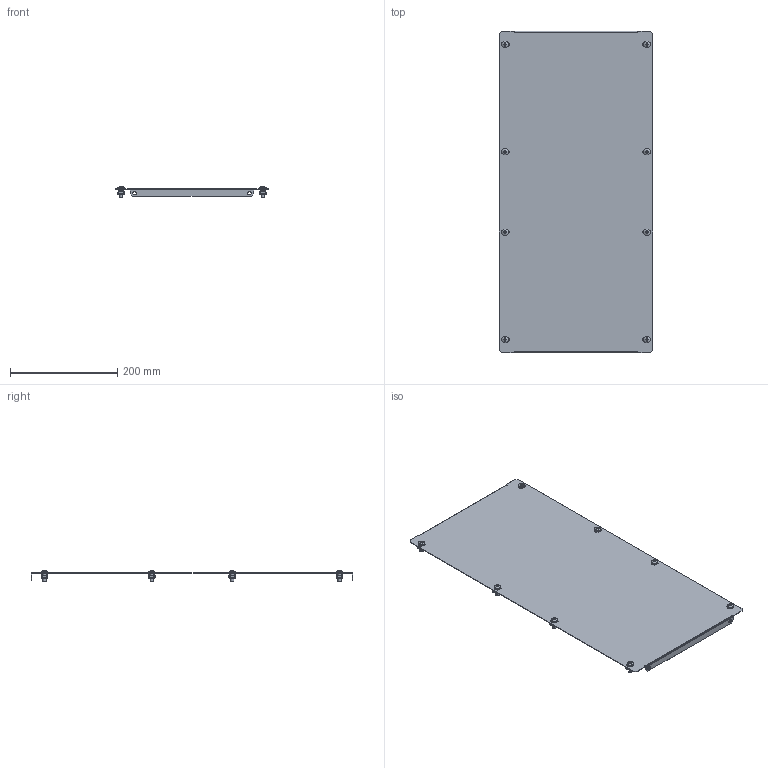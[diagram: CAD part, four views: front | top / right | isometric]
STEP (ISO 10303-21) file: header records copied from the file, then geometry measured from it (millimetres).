
FILE_DESCRIPTION (( 'STEP AP203' ), '1' );
FILE_NAME ('MA1.400.060000.01.00 Ïëàñòðîí Â600 Ø400 EKF AleSta-FP60M400.STEP', '2024-12-02T12:48:48', ( '' ), ( '' ), 'SwSTEP 2.0', 'SolidWorks 2021', '' );
FILE_SCHEMA (( 'CONFIG_CONTROL_DESIGN' ));
Length unit declared in the file: millimetre
Products named in the file (6): MA1.400.060000.01.00 Ïëàñòðîí Â600 Ø400 EKF AleSta-FP60M400; MA1.400.060000.01.01 Ïëàñòðîí Â50 Ø600 EKF AleSta_Copy of Copy of ˜=400; Îáîëî÷êà ãàéêè çàêëàäíîé; pan head cross recess screw_din_DIN EN ISO 7045 - M6 x 16 - Z - 16N; Ãàéêà çàêëàäêàÿ Ì6; Ãàéêà çàêëàäíàÿ
Assembly tree (19 placements, depth 3):
  MA1.400.060000.01.00 Ïëàñòðîí Â600 Ø400 EKF AleSta-FP60M400
    MA1.400.060000.01.01 Ïëàñòðîí Â50 Ø600 EKF AleSta_Copy of Copy of ˜=400
    Ãàéêà çàêëàäíàÿ  x8
      Îáîëî÷êà ãàéêè çàêëàäíîé
      Ãàéêà çàêëàäêàÿ Ì6
    pan head cross recess screw_din_DIN EN ISO 7045 - M6 x 16 - Z - 16N  x8
Bounding box: 286 x 599 x 20.48 mm (x, y, z)
Volume: 186694.3 mm3; surface area: 369165.1 mm2
Topology: 25 solids, 25 shells, 1330 faces, 2938 edges, 1666 vertices
Faces by surface type: plane 842, cylinder 280, bspline 128, cone 56, torus 16, sphere 8
Full cylindrical faces by diameter (mm): 6 x16, 6.5 x4, 7 x8, 12 x8
Entity records: 8220 total; most frequent: CARTESIAN_POINT 1773, DIRECTION 1122, ORIENTED_EDGE 1096, EDGE_CURVE 548, LINE 384, VECTOR 384, AXIS2_PLACEMENT_3D 369, VERTEX_POINT 332
